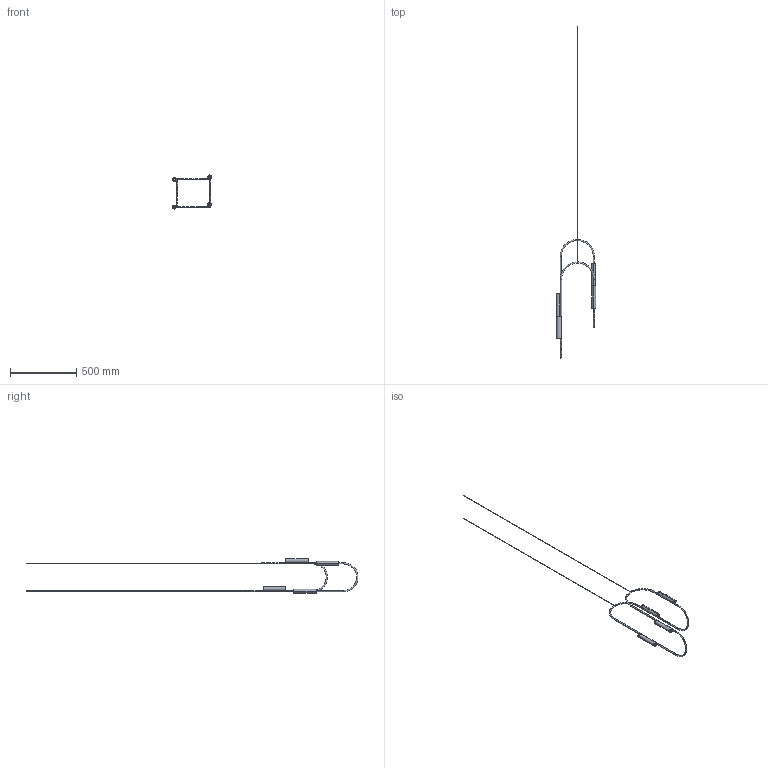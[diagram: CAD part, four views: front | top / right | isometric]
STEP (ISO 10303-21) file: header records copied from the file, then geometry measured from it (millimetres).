
FILE_DESCRIPTION (( 'STEP AP214' ), '1' );
FILE_NAME ('Pop - Pendant Loop A.STEP', '2024-04-08T05:49:20', ( '' ), ( '' ), 'SwSTEP 2.0', 'SolidWorks 2017', '' );
FILE_SCHEMA (( 'AUTOMOTIVE_DESIGN' ));
Length unit declared in the file: millimetre
Products named in the file (1): Pop - Pendant Loop A
Bounding box: 296.91 x 2504.87 x 256.74 mm (x, y, z)
Volume: 559671 mm3; surface area: 361508.2 mm2
Topology: 24 solids, 24 shells, 414 faces, 870 edges, 526 vertices
Faces by surface type: cylinder 150, torus 110, plane 70, cone 48, bspline 36
Entity records: 24517 total; most frequent: CARTESIAN_POINT 10715, DIRECTION 2060, ORIENTED_EDGE 1740, AXIS2_PLACEMENT_3D 933, EDGE_CURVE 870, CIRCLE 554, VERTEX_POINT 526, EDGE_LOOP 456
